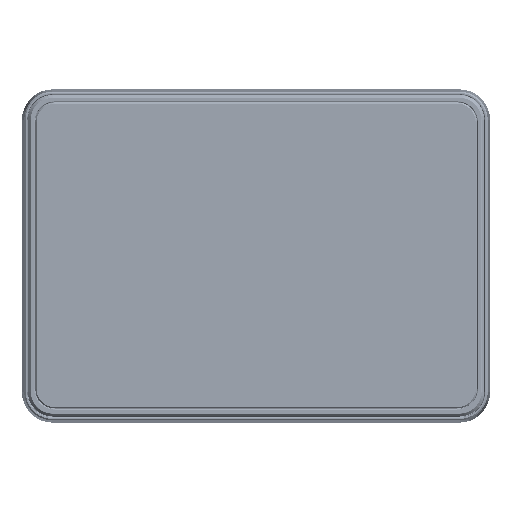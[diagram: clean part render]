
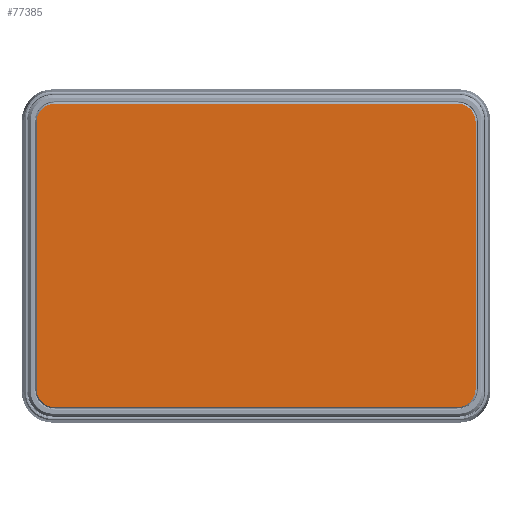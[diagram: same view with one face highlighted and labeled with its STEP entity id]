
A CAD part, top view. The second image highlights one B-rep face of the part: STEP entity #77385.
In plain terms, the highlighted planar face has unit normal (0, 0, 1).
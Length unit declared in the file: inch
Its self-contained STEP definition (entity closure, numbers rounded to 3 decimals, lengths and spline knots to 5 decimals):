
#5289 = CARTESIAN_POINT ( 'NONE',  ( 0., 2.46781, 0.11811 ) ) ;
#5397 = VERTEX_POINT ( 'NONE', #101684 ) ;
#5730 = DIRECTION ( 'NONE',  ( -1., 0., 0. ) ) ;
#6522 = DIRECTION ( 'NONE',  ( 0., 0., 1. ) ) ;
#9396 = DIRECTION ( 'NONE',  ( 0., 1., 0. ) ) ;
#11815 = ORIENTED_EDGE ( 'NONE', *, *, #67474, .T. ) ;
#12901 = CIRCLE ( 'NONE', #48804, 0.29802 ) ;
#13011 = CARTESIAN_POINT ( 'NONE',  ( -3.27029, 2.16979, 0.11811 ) ) ;
#13784 = VERTEX_POINT ( 'NONE', #90046 ) ;
#16233 = CARTESIAN_POINT ( 'NONE',  ( -3.27029, -2.16979, 0.11811 ) ) ;
#18539 = PLANE ( 'NONE',  #46580 ) ;
#23332 = VERTEX_POINT ( 'NONE', #71887 ) ;
#27373 = LINE ( 'NONE', #37719, #66511 ) ;
#27407 = ORIENTED_EDGE ( 'NONE', *, *, #76225, .T. ) ;
#32747 = VERTEX_POINT ( 'NONE', #124918 ) ;
#34835 = DIRECTION ( 'NONE',  ( 0., 0., 1. ) ) ;
#37719 = CARTESIAN_POINT ( 'NONE',  ( -3.56831, 0., 0.11811 ) ) ;
#40356 = CARTESIAN_POINT ( 'NONE',  ( 0., -2.46781, 0.11811 ) ) ;
#41515 = EDGE_CURVE ( 'NONE', #53002, #92736, #101987, .T. ) ;
#46580 = AXIS2_PLACEMENT_3D ( 'NONE', #87311, #79308, #117175 ) ;
#46907 = ORIENTED_EDGE ( 'NONE', *, *, #41515, .T. ) ;
#48612 = LINE ( 'NONE', #124861, #90990 ) ;
#48804 = AXIS2_PLACEMENT_3D ( 'NONE', #13011, #88882, #97649 ) ;
#51629 = EDGE_CURVE ( 'NONE', #65198, #95657, #27373, .T. ) ;
#53002 = VERTEX_POINT ( 'NONE', #104028 ) ;
#59740 = EDGE_LOOP ( 'NONE', ( #80353, #11815, #93640, #98821, #46907, #27407, #107750, #98032 ) ) ;
#62159 = FACE_OUTER_BOUND ( 'NONE', #59740, .T. ) ;
#65198 = VERTEX_POINT ( 'NONE', #113955 ) ;
#65307 = AXIS2_PLACEMENT_3D ( 'NONE', #94778, #112521, #83610 ) ;
#66511 = VECTOR ( 'NONE', #104471, 39.37008 ) ;
#67474 = EDGE_CURVE ( 'NONE', #13784, #32747, #111988, .T. ) ;
#69039 = CIRCLE ( 'NONE', #114694, 0.29802 ) ;
#69633 = LINE ( 'NONE', #40356, #110390 ) ;
#70323 = EDGE_CURVE ( 'NONE', #95657, #23332, #69039, .T. ) ;
#71887 = CARTESIAN_POINT ( 'NONE',  ( -3.27029, -2.46781, 0.11811 ) ) ;
#75075 = CARTESIAN_POINT ( 'NONE',  ( 3.27029, -2.16979, 0.11811 ) ) ;
#76225 = EDGE_CURVE ( 'NONE', #92736, #65198, #12901, .T. ) ;
#77385 = ADVANCED_FACE ( 'NONE', ( #62159 ), #18539, .F. ) ;
#79308 = DIRECTION ( 'NONE',  ( 0., 0., -1. ) ) ;
#80353 = ORIENTED_EDGE ( 'NONE', *, *, #111549, .T. ) ;
#83610 = DIRECTION ( 'NONE',  ( -1., 0., 0. ) ) ;
#84247 = DIRECTION ( 'NONE',  ( -1., 0., 0. ) ) ;
#87311 = CARTESIAN_POINT ( 'NONE',  ( 0., 0., 0.11811 ) ) ;
#88771 = DIRECTION ( 'NONE',  ( 1., 0., 0. ) ) ;
#88882 = DIRECTION ( 'NONE',  ( 0., 0., 1. ) ) ;
#89300 = EDGE_CURVE ( 'NONE', #32747, #5397, #48612, .T. ) ;
#90046 = CARTESIAN_POINT ( 'NONE',  ( 3.27029, -2.46781, 0.11811 ) ) ;
#90681 = CIRCLE ( 'NONE', #65307, 0.29802 ) ;
#90990 = VECTOR ( 'NONE', #9396, 39.37008 ) ;
#92736 = VERTEX_POINT ( 'NONE', #115358 ) ;
#93640 = ORIENTED_EDGE ( 'NONE', *, *, #89300, .T. ) ;
#94778 = CARTESIAN_POINT ( 'NONE',  ( 3.27029, 2.16979, 0.11811 ) ) ;
#95657 = VERTEX_POINT ( 'NONE', #123699 ) ;
#97649 = DIRECTION ( 'NONE',  ( -1., 0., 0. ) ) ;
#97819 = DIRECTION ( 'NONE',  ( -1., 0., 0. ) ) ;
#97872 = EDGE_CURVE ( 'NONE', #5397, #53002, #90681, .T. ) ;
#98032 = ORIENTED_EDGE ( 'NONE', *, *, #70323, .T. ) ;
#98140 = AXIS2_PLACEMENT_3D ( 'NONE', #75075, #6522, #5730 ) ;
#98821 = ORIENTED_EDGE ( 'NONE', *, *, #97872, .T. ) ;
#101684 = CARTESIAN_POINT ( 'NONE',  ( 3.56831, 2.16979, 0.11811 ) ) ;
#101987 = LINE ( 'NONE', #5289, #102400 ) ;
#102400 = VECTOR ( 'NONE', #97819, 39.37008 ) ;
#104028 = CARTESIAN_POINT ( 'NONE',  ( 3.27029, 2.46781, 0.11811 ) ) ;
#104471 = DIRECTION ( 'NONE',  ( 0., -1., 0. ) ) ;
#107750 = ORIENTED_EDGE ( 'NONE', *, *, #51629, .T. ) ;
#110390 = VECTOR ( 'NONE', #88771, 39.37008 ) ;
#111549 = EDGE_CURVE ( 'NONE', #23332, #13784, #69633, .T. ) ;
#111988 = CIRCLE ( 'NONE', #98140, 0.29802 ) ;
#112521 = DIRECTION ( 'NONE',  ( 0., 0., 1. ) ) ;
#113955 = CARTESIAN_POINT ( 'NONE',  ( -3.56831, 2.16979, 0.11811 ) ) ;
#114694 = AXIS2_PLACEMENT_3D ( 'NONE', #16233, #34835, #84247 ) ;
#115358 = CARTESIAN_POINT ( 'NONE',  ( -3.27029, 2.46781, 0.11811 ) ) ;
#117175 = DIRECTION ( 'NONE',  ( -1., 0., 0. ) ) ;
#123699 = CARTESIAN_POINT ( 'NONE',  ( -3.56831, -2.16979, 0.11811 ) ) ;
#124861 = CARTESIAN_POINT ( 'NONE',  ( 3.56831, 0., 0.11811 ) ) ;
#124918 = CARTESIAN_POINT ( 'NONE',  ( 3.56831, -2.16979, 0.11811 ) ) ;
